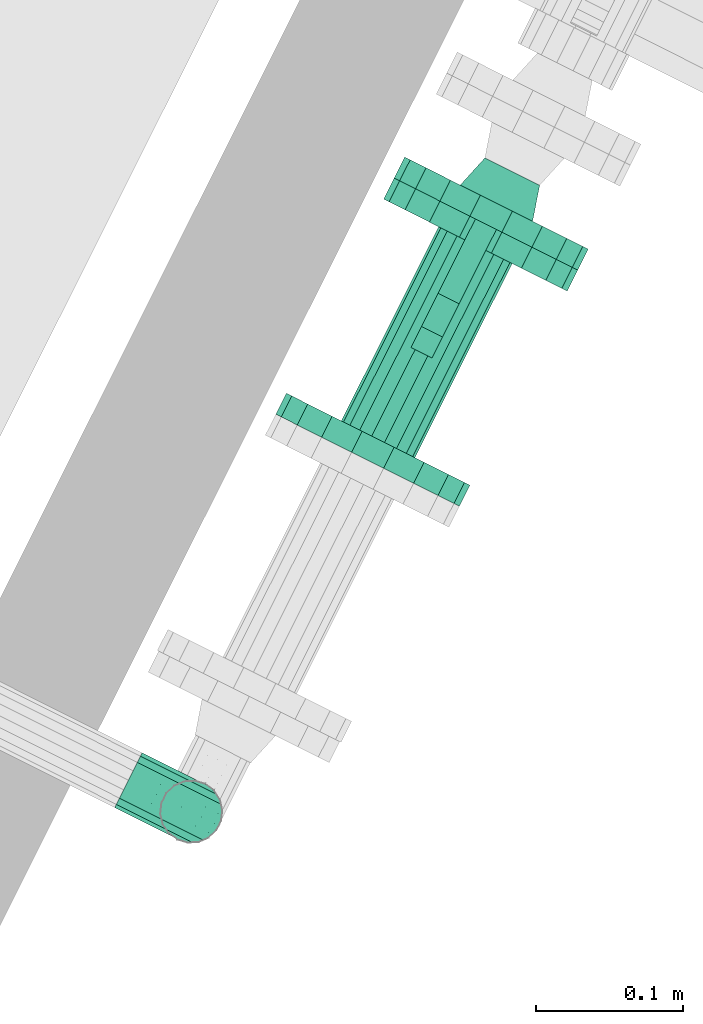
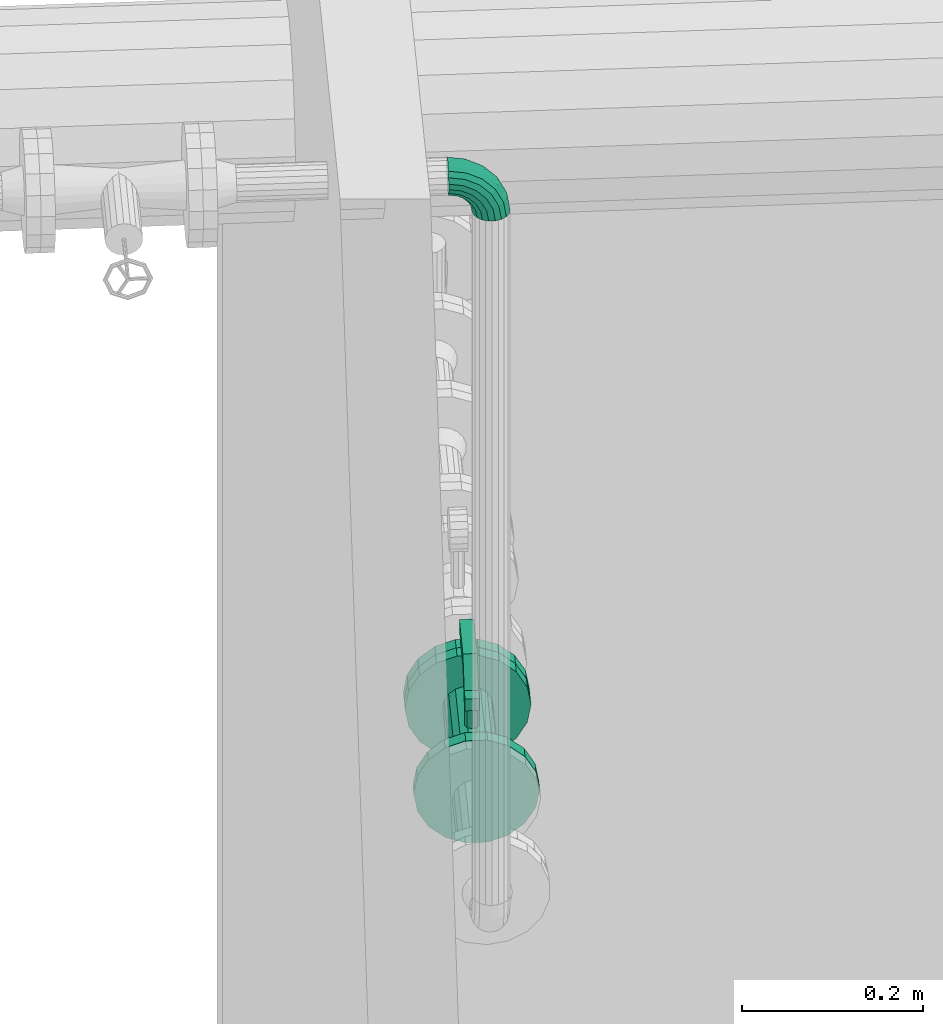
# One storey, part 84 of 206: 1 flow controller, 1 flow fitting, 1 flow segment.
"""IFC2X3 building model written with IfcOpenShell, lengths in metres."""

from ifc_helpers import new_model, si_unit, derived_unit, direction, frame, origin, place, context, subcontext, project, spatial, face_set, surface_model, source, transform, mapped, material, type_object, type_shapes, element, save


model = new_model("IFC2X3")

# Units and contexts
model_context = context("Model", 3, precision=5.2338327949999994e-05, world=origin(), true_north=direction((0.0, 1.0)))
body_context = subcontext(model_context, "Body", "Model", "MODEL_VIEW")
ifc_project = project(units=[si_unit("LENGTHUNIT", "METRE"), si_unit("AREAUNIT", "SQUARE_METRE"), si_unit("VOLUMEUNIT", "CUBIC_METRE"), si_unit("MASSUNIT", "GRAM", prefix="KILO"), si_unit("PLANEANGLEUNIT", "RADIAN"), derived_unit("THERMALTRANSMITTANCEUNIT", [(si_unit("MASSUNIT", "GRAM", prefix="KILO"), 1), (si_unit("THERMODYNAMICTEMPERATUREUNIT", "KELVIN"), -1), (si_unit("TIMEUNIT", "SECOND"), -3)])], contexts=[model_context])

# Site, building, storey
site_placement = place(None, frame((0.0, 0.0, 0.0), z_axis=(0.0, 0.0, 1.0), x_axis=(0.8939966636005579, -0.4480736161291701, 0.0)))
site = spatial("IfcSite", under=ifc_project, at=site_placement, Name="Default", CompositionType="ELEMENT")
building_placement = place(site_placement, origin())
building = spatial("IfcBuilding", under=site, at=building_placement, CompositionType="ELEMENT")
storey_placement = place(building_placement, origin())
storey = spatial("IfcBuildingStorey", under=building, at=storey_placement, Name="Erdgeschoss", CompositionType="ELEMENT", Elevation=0.0)

# Flow controller
ifc_material = material(Name="IfcSurfaceStyle #352577")
distribution_element_type_1 = type_object("IfcDistributionElementType", Name="Absperrklappe 607034:Absperrklappe 607034", material=ifc_material)
shared_shape_1 = source(origin(), body_context, "Body", "SurfaceModel", [
    surface_model("IfcFaceBasedSurfaceModel", [(29.089818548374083, 8.435162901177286, 1.5840041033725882), (29.087475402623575, 8.44081975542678, 1.5840041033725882), (29.087475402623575, 8.44081975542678, 1.6360041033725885), (29.089818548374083, 8.435162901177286, 1.6360041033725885), (29.08181854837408, 8.443162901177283, 1.5840041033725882), (29.08181854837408, 8.443162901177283, 1.6360041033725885), (29.076161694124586, 8.440819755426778, 1.5840041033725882), (29.076161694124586, 8.440819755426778, 1.6360041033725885), (29.07381854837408, 8.435162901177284, 1.5840041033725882), (29.07381854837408, 8.435162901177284, 1.6360041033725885), (29.076161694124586, 8.429506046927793, 1.5840041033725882), (29.076161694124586, 8.429506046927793, 1.6360041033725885), (29.08181854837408, 8.427162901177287, 1.5840041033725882), (29.08181854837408, 8.427162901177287, 1.6360041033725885), (29.087475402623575, 8.429506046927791, 1.5840041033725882), (29.087475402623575, 8.429506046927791, 1.6360041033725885), (29.089818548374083, 8.443162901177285, 1.6360041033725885), (29.089818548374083, 8.427162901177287, 1.6360041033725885), (29.07381854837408, 8.427162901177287, 1.6360041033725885), (29.07381854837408, 8.443162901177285, 1.6360041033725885), (29.089818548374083, 8.427162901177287, 1.6520041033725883), (29.07381854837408, 8.427162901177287, 1.6520041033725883), (29.089818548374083, 8.443162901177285, 1.6520041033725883), (29.07381854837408, 8.443162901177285, 1.6520041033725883), (29.089818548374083, 8.46849623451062, 1.684004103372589), (29.073818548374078, 8.46849623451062, 1.684004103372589), (29.089818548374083, 8.535162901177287, 1.6840041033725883), (29.073818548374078, 8.535162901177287, 1.6840041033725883), (29.089818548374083, 8.535162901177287, 1.6680041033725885), (29.073818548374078, 8.535162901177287, 1.6680041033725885), (29.089818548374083, 8.46849623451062, 1.6680041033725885), (29.073818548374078, 8.46849623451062, 1.6680041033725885), (29.151818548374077, 8.345162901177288, 1.5840041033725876), (29.147597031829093, 8.345162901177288, 1.560062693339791), (29.147597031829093, 8.361162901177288, 1.560062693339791), (29.151818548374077, 8.361162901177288, 1.5840041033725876), (29.135441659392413, 8.345162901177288, 1.539008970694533), (29.135441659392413, 8.361162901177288, 1.539008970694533), (29.11681854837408, 8.345162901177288, 1.5233823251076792), (29.11681854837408, 8.361162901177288, 1.5233823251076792), (29.093973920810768, 8.345162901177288, 1.5150675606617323), (29.093973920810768, 8.361162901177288, 1.5150675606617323), (29.069663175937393, 8.345162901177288, 1.5150675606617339), (29.069663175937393, 8.361162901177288, 1.5150675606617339), (29.046818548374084, 8.345162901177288, 1.5233823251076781), (29.046818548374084, 8.361162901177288, 1.5233823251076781), (29.028195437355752, 8.345162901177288, 1.5390089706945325), (29.028195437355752, 8.361162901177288, 1.5390089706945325), (29.016040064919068, 8.345162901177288, 1.5600626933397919), (29.016040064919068, 8.361162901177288, 1.5600626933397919), (29.011818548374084, 8.345162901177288, 1.5840041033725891), (29.011818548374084, 8.361162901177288, 1.5840041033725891), (29.016040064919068, 8.345162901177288, 1.607945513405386), (29.016040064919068, 8.361162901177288, 1.607945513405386), (29.028195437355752, 8.345162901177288, 1.6289992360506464), (29.028195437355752, 8.361162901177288, 1.6289992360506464), (29.046818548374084, 8.345162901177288, 1.6446258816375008), (29.046818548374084, 8.361162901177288, 1.6446258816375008), (29.069663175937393, 8.345162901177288, 1.6529406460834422), (29.069663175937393, 8.361162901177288, 1.6529406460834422), (29.093973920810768, 8.345162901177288, 1.652940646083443), (29.093973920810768, 8.361162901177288, 1.652940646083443), (29.11681854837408, 8.345162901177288, 1.6446258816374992), (29.11681854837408, 8.361162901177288, 1.6446258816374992), (29.135441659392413, 8.345162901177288, 1.6289992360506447), (29.135441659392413, 8.361162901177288, 1.6289992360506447), (29.147597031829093, 8.345162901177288, 1.607945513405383), (29.147597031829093, 8.361162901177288, 1.607945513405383), (29.08181854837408, 8.345162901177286, 1.5840041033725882), (29.08181854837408, 8.361162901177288, 1.5840041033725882), (29.109818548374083, 8.361162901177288, 1.5840041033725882), (29.108129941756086, 8.361162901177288, 1.5744275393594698), (29.108129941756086, 8.509162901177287, 1.5744275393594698), (29.109818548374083, 8.509162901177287, 1.5840041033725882), (29.10326779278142, 8.361162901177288, 1.5660060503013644), (29.10326779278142, 8.509162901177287, 1.5660060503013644), (29.09581854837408, 8.361162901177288, 1.5597553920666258), (29.09581854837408, 8.509162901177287, 1.5597553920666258), (29.086680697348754, 8.361162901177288, 1.556429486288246), (29.086680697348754, 8.509162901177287, 1.556429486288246), (29.076956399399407, 8.361162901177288, 1.5564294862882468), (29.076956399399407, 8.509162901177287, 1.5564294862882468), (29.067818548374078, 8.361162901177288, 1.5597553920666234), (29.067818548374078, 8.509162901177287, 1.5597553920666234), (29.060369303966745, 8.361162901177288, 1.566006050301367), (29.060369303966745, 8.509162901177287, 1.566006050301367), (29.055507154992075, 8.361162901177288, 1.5744275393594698), (29.055507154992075, 8.509162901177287, 1.5744275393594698), (29.05381854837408, 8.361162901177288, 1.5840041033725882), (29.05381854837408, 8.509162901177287, 1.5840041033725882), (29.055507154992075, 8.361162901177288, 1.5935806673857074), (29.055507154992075, 8.509162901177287, 1.5935806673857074), (29.06036930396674, 8.361162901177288, 1.6020021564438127), (29.06036930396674, 8.509162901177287, 1.6020021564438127), (29.067818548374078, 8.361162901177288, 1.608252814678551), (29.067818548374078, 8.509162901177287, 1.608252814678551), (29.076956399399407, 8.361162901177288, 1.6115787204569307), (29.076956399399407, 8.509162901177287, 1.6115787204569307), (29.086680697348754, 8.361162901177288, 1.61157872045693), (29.086680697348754, 8.509162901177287, 1.61157872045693), (29.09581854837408, 8.361162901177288, 1.6082528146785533), (29.09581854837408, 8.509162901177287, 1.6082528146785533), (29.103267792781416, 8.361162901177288, 1.60200215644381), (29.103267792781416, 8.509162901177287, 1.60200215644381), (29.108129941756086, 8.361162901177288, 1.5935806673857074), (29.108129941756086, 8.509162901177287, 1.5935806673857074), (29.151818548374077, 8.509162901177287, 1.5840041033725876), (29.147597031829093, 8.509162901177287, 1.560062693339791), (29.147597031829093, 8.52516290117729, 1.560062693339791), (29.151818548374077, 8.52516290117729, 1.5840041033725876), (29.135441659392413, 8.509162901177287, 1.539008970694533), (29.135441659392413, 8.52516290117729, 1.539008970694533), (29.11681854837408, 8.509162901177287, 1.5233823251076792), (29.11681854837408, 8.52516290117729, 1.5233823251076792), (29.093973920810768, 8.509162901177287, 1.5150675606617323), (29.093973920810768, 8.52516290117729, 1.5150675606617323), (29.069663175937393, 8.509162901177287, 1.5150675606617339), (29.069663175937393, 8.52516290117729, 1.5150675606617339), (29.046818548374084, 8.509162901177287, 1.5233823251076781), (29.046818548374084, 8.52516290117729, 1.5233823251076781), (29.028195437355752, 8.509162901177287, 1.5390089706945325), (29.028195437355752, 8.52516290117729, 1.5390089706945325), (29.016040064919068, 8.509162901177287, 1.5600626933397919), (29.016040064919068, 8.52516290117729, 1.5600626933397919), (29.011818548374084, 8.509162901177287, 1.5840041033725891), (29.011818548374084, 8.52516290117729, 1.5840041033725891), (29.016040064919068, 8.509162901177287, 1.607945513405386), (29.016040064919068, 8.52516290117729, 1.607945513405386), (29.028195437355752, 8.509162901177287, 1.6289992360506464), (29.028195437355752, 8.52516290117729, 1.6289992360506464), (29.046818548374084, 8.509162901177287, 1.6446258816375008), (29.046818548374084, 8.52516290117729, 1.6446258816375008), (29.069663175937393, 8.509162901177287, 1.6529406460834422), (29.069663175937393, 8.52516290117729, 1.6529406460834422), (29.093973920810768, 8.509162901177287, 1.652940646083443), (29.093973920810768, 8.52516290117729, 1.652940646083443), (29.11681854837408, 8.509162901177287, 1.6446258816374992), (29.11681854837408, 8.52516290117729, 1.6446258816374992), (29.135441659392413, 8.509162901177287, 1.6289992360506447), (29.135441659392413, 8.52516290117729, 1.6289992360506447), (29.147597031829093, 8.509162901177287, 1.607945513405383), (29.147597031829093, 8.52516290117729, 1.607945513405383), (29.08181854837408, 8.509162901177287, 1.5840041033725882), (29.08181854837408, 8.525162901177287, 1.5840041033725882)], [face_set([[[0, 1, 2, 3]], [[1, 4, 5, 2]], [[4, 6, 7, 5]], [[6, 8, 9, 7]], [[8, 10, 11, 9]], [[10, 12, 13, 11]], [[12, 14, 15, 13]], [[14, 0, 3, 15]], [[16, 17, 18, 19]], [[17, 20, 21, 18]], [[20, 22, 23, 21]], [[22, 24, 25, 23]], [[24, 26, 27, 25]], [[26, 28, 29, 27]], [[28, 30, 31, 29]], [[30, 16, 19, 31]], [[18, 23, 19]], [[25, 19, 23]], [[19, 25, 31]], [[27, 31, 25]], [[31, 27, 29]], [[23, 18, 21]], [[16, 22, 17]], [[22, 16, 24]], [[30, 24, 16]], [[24, 30, 26]], [[28, 26, 30]], [[20, 17, 22]], [[32, 33, 34, 35]], [[33, 36, 37, 34]], [[36, 38, 39, 37]], [[38, 40, 41, 39]], [[40, 42, 43, 41]], [[42, 44, 45, 43]], [[44, 46, 47, 45]], [[46, 48, 49, 47]], [[48, 50, 51, 49]], [[50, 52, 53, 51]], [[52, 54, 55, 53]], [[54, 56, 57, 55]], [[56, 58, 59, 57]], [[58, 60, 61, 59]], [[60, 62, 63, 61]], [[62, 64, 65, 63]], [[64, 66, 67, 65]], [[66, 32, 35, 67]], [[68, 33, 32]], [[68, 36, 33]], [[68, 38, 36]], [[68, 40, 38]], [[68, 42, 40]], [[68, 44, 42]], [[68, 46, 44]], [[68, 48, 46]], [[68, 50, 48]], [[68, 52, 50]], [[68, 54, 52]], [[68, 56, 54]], [[68, 58, 56]], [[68, 60, 58]], [[68, 62, 60]], [[68, 64, 62]], [[68, 66, 64]], [[68, 32, 66]], [[69, 67, 35]], [[69, 65, 67]], [[69, 63, 65]], [[69, 61, 63]], [[69, 59, 61]], [[69, 57, 59]], [[69, 55, 57]], [[69, 53, 55]], [[69, 51, 53]], [[69, 49, 51]], [[69, 47, 49]], [[69, 45, 47]], [[69, 43, 45]], [[69, 41, 43]], [[69, 39, 41]], [[69, 37, 39]], [[69, 34, 37]], [[69, 35, 34]], [[70, 71, 72, 73]], [[71, 74, 75, 72]], [[74, 76, 77, 75]], [[76, 78, 79, 77]], [[78, 80, 81, 79]], [[80, 82, 83, 81]], [[82, 84, 85, 83]], [[84, 86, 87, 85]], [[86, 88, 89, 87]], [[88, 90, 91, 89]], [[90, 92, 93, 91]], [[92, 94, 95, 93]], [[94, 96, 97, 95]], [[96, 98, 99, 97]], [[98, 100, 101, 99]], [[100, 102, 103, 101]], [[102, 104, 105, 103]], [[104, 70, 73, 105]], [[106, 107, 108, 109]], [[107, 110, 111, 108]], [[110, 112, 113, 111]], [[112, 114, 115, 113]], [[114, 116, 117, 115]], [[116, 118, 119, 117]], [[118, 120, 121, 119]], [[120, 122, 123, 121]], [[122, 124, 125, 123]], [[124, 126, 127, 125]], [[126, 128, 129, 127]], [[128, 130, 131, 129]], [[130, 132, 133, 131]], [[132, 134, 135, 133]], [[134, 136, 137, 135]], [[136, 138, 139, 137]], [[138, 140, 141, 139]], [[140, 106, 109, 141]], [[142, 107, 106]], [[142, 110, 107]], [[142, 112, 110]], [[142, 114, 112]], [[142, 116, 114]], [[142, 118, 116]], [[142, 120, 118]], [[142, 122, 120]], [[142, 124, 122]], [[142, 126, 124]], [[142, 128, 126]], [[142, 130, 128]], [[142, 132, 130]], [[142, 134, 132]], [[142, 136, 134]], [[142, 138, 136]], [[142, 140, 138]], [[142, 106, 140]], [[143, 141, 109]], [[143, 139, 141]], [[143, 137, 139]], [[143, 135, 137]], [[143, 133, 135]], [[143, 131, 133]], [[143, 129, 131]], [[143, 127, 129]], [[143, 125, 127]], [[143, 123, 125]], [[143, 121, 123]], [[143, 119, 121]], [[143, 117, 119]], [[143, 115, 117]], [[143, 113, 115]], [[143, 111, 113]], [[143, 108, 111]], [[143, 109, 108]]])]),
])
type_shapes(distribution_element_type_1, [shared_shape_1])
flow_controller_placement = place(storey_placement, origin())
element("IfcFlowController", 1, at=flow_controller_placement, inside=storey, type_object=distribution_element_type_1, material=ifc_material, Name="Absperrklappe", ObjectType="Absperrklappe", context=body_context, shape_type="MappedRepresentation", body=[
    mapped(shared_shape_1, transform((0.0, 0.0, 0.0), scale=1.0)),
])

# Flow fitting
distribution_element_type_2 = type_object("IfcDistributionElementType", Name="Flansch 607057:Flansch 607057", material=ifc_material)
shared_shape_2 = source(origin(), body_context, "Body", "SurfaceModel", [
    surface_model("IfcFaceBasedSurfaceModel", [(29.151818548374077, 8.525162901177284, 1.5840041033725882), (29.14759703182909, 8.525162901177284, 1.5600626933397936), (29.14759703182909, 8.541162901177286, 1.5600626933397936), (29.151818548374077, 8.541162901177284, 1.5840041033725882), (29.13544165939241, 8.525162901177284, 1.5390089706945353), (29.13544165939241, 8.541162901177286, 1.5390089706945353), (29.116818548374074, 8.525162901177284, 1.5233823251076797), (29.116818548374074, 8.541162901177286, 1.5233823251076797), (29.093973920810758, 8.525162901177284, 1.5150675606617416), (29.093973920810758, 8.541162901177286, 1.5150675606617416), (29.069663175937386, 8.525162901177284, 1.5150675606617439), (29.069663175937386, 8.541162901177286, 1.5150675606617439), (29.04681854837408, 8.525162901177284, 1.5233823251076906), (29.04681854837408, 8.541162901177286, 1.5233823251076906), (29.02819543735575, 8.525162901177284, 1.539008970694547), (29.02819543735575, 8.541162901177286, 1.539008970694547), (29.016040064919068, 8.525162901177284, 1.5600626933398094), (29.016040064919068, 8.541162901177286, 1.5600626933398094), (29.011818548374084, 8.525162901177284, 1.5840041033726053), (29.011818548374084, 8.541162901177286, 1.5840041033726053), (29.016040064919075, 8.525162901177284, 1.607945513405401), (29.016040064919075, 8.541162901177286, 1.607945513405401), (29.02819543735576, 8.525162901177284, 1.6289992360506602), (29.02819543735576, 8.541162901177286, 1.6289992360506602), (29.046818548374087, 8.525162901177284, 1.6446258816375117), (29.046818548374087, 8.541162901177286, 1.6446258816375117), (29.069663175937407, 8.525162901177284, 1.6529406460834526), (29.069663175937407, 8.541162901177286, 1.6529406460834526), (29.093973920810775, 8.525162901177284, 1.6529406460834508), (29.093973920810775, 8.541162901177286, 1.6529406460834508), (29.11681854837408, 8.525162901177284, 1.6446258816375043), (29.11681854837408, 8.541162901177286, 1.6446258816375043), (29.135441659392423, 8.525162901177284, 1.6289992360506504), (29.135441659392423, 8.541162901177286, 1.6289992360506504), (29.1475970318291, 8.525162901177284, 1.607945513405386), (29.1475970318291, 8.541162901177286, 1.607945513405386), (29.08181854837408, 8.541162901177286, 1.5840041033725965), (29.08181854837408, 8.541162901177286, 1.5560041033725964), (29.07224198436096, 8.541162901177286, 1.5576927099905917), (29.074567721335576, 8.565162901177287, 1.5640826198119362), (29.08181854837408, 8.565162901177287, 1.562804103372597), (29.06382049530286, 8.541162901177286, 1.562554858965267), (29.06819145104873, 8.565162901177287, 1.5677639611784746), (29.057569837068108, 8.541162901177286, 1.570004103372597), (29.063458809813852, 8.565162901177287, 1.5734041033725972), (29.054243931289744, 8.541162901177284, 1.5791419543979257), (29.06094062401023, 8.565162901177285, 1.5803227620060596), (29.05424393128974, 8.541162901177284, 1.588866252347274), (29.06094062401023, 8.565162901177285, 1.5876854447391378), (29.057569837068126, 8.541162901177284, 1.5980041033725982), (29.063458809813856, 8.565162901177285, 1.5946041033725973), (29.06382049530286, 8.541162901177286, 1.6054533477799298), (29.068191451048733, 8.565162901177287, 1.6002442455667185), (29.07224198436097, 8.541162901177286, 1.6103154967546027), (29.07456772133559, 8.565162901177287, 1.6039255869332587), (29.081818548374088, 8.541162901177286, 1.612004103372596), (29.081818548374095, 8.565162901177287, 1.6052041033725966), (29.091395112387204, 8.541162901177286, 1.6103154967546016), (29.08906937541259, 8.565162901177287, 1.6039255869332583), (29.099816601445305, 8.541162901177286, 1.605453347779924), (29.095445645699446, 8.565162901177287, 1.6002442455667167), (29.106067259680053, 8.541162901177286, 1.5980041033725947), (29.100178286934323, 8.565162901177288, 1.594604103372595), (29.109393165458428, 8.541162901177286, 1.588866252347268), (29.102696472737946, 8.565162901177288, 1.5876854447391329), (29.109393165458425, 8.541162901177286, 1.57914195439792), (29.10269647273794, 8.565162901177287, 1.5803227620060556), (29.10606725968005, 8.541162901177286, 1.570004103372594), (29.10017828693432, 8.565162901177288, 1.5734041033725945), (29.0998166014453, 8.541162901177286, 1.562554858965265), (29.095445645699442, 8.565162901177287, 1.5677639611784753), (29.0913951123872, 8.541162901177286, 1.5576927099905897), (29.089069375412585, 8.565162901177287, 1.564082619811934)], [face_set([[[0, 1, 2, 3]], [[1, 4, 5, 2]], [[4, 6, 7, 5]], [[6, 8, 9, 7]], [[8, 10, 11, 9]], [[10, 12, 13, 11]], [[12, 14, 15, 13]], [[14, 16, 17, 15]], [[16, 18, 19, 17]], [[18, 20, 21, 19]], [[20, 22, 23, 21]], [[22, 24, 25, 23]], [[24, 26, 27, 25]], [[26, 28, 29, 27]], [[28, 30, 31, 29]], [[30, 32, 33, 31]], [[32, 34, 35, 33]], [[34, 0, 3, 35]], [[36, 35, 3]], [[36, 33, 35]], [[36, 31, 33]], [[36, 29, 31]], [[36, 27, 29]], [[36, 25, 27]], [[36, 23, 25]], [[36, 21, 23]], [[36, 19, 21]], [[36, 17, 19]], [[36, 15, 17]], [[36, 13, 15]], [[36, 11, 13]], [[36, 9, 11]], [[36, 7, 9]], [[36, 5, 7]], [[36, 2, 5]], [[36, 3, 2]], [[37, 38, 39, 40]], [[38, 41, 42, 39]], [[41, 43, 44, 42]], [[43, 45, 46, 44]], [[45, 47, 48, 46]], [[47, 49, 50, 48]], [[49, 51, 52, 50]], [[51, 53, 54, 52]], [[53, 55, 56, 54]], [[55, 57, 58, 56]], [[57, 59, 60, 58]], [[59, 61, 62, 60]], [[61, 63, 64, 62]], [[63, 65, 66, 64]], [[65, 67, 68, 66]], [[67, 69, 70, 68]], [[69, 71, 72, 70]], [[71, 37, 40, 72]]])]),
])
type_shapes(distribution_element_type_2, [shared_shape_2])
flow_fitting_placement = place(storey_placement, origin())
element("IfcFlowFitting", 2, at=flow_fitting_placement, inside=storey, type_object=distribution_element_type_2, material=ifc_material, Name="Flansch", ObjectType="Flansch", context=body_context, shape_type="MappedRepresentation", body=[
    mapped(shared_shape_2, transform((0.0, 0.0, 0.0), scale=1.0)),
])

# Flow segment
distribution_element_type_3 = type_object("IfcDistributionElementType", Name="Rohrbogen 611750:Rohrbogen 611750", material=ifc_material)
shared_shape_3 = source(origin(), body_context, "Body", "SurfaceModel", [
    surface_model("IfcFaceBasedSurfaceModel", [(29.103018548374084, 8.077162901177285, 2.557164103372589), (29.10174003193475, 8.084413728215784, 2.5571641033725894), (29.098415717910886, 8.084413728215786, 2.578152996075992), (29.099631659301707, 8.077162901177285, 2.578548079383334), (29.08876818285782, 8.084413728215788, 2.5970873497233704), (29.08980252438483, 8.077162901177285, 2.597838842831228), (29.07374179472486, 8.084413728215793, 2.612113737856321), (29.07449328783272, 8.07716290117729, 2.613148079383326), (29.054807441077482, 8.084413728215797, 2.621761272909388), (29.05520252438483, 8.077162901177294, 2.622977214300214), (29.033818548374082, 8.084413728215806, 2.625085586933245), (29.033818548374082, 8.077162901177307, 2.6263641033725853), (29.098058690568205, 8.090789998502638, 2.557164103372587), (29.09491455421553, 8.090789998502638, 2.577015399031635), (29.0857899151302, 8.090789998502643, 2.5949235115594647), (29.071577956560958, 8.090789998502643, 2.609135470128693), (29.05366984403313, 8.09078999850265, 2.618260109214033), (29.033818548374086, 8.09078999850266, 2.621404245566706), (29.09241854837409, 8.095522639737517, 2.557164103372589), (29.08955046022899, 8.09552263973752, 2.575272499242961), (29.08122694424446, 8.095522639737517, 2.5916083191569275), (29.068262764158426, 8.09552263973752, 2.6045724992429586), (29.05192694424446, 8.095522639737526, 2.612896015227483), (29.033818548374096, 8.09552263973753, 2.6157641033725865), (29.085499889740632, 8.098040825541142, 2.557164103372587), (29.08297042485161, 8.098040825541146, 2.5731345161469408), (29.07562963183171, 8.098040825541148, 2.587541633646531), (29.064196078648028, 8.098040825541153, 2.598975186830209), (29.049788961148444, 8.098040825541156, 2.606315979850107), (29.033818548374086, 8.09804082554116, 2.6088454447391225), (29.07813720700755, 8.09804082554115, 2.5571641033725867), (29.0759680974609, 8.09804082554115, 2.5708593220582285), (29.069673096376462, 8.098040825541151, 2.58321395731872), (29.05986840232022, 8.098040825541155, 2.5930186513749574), (29.04751376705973, 8.098040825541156, 2.5993136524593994), (29.033818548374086, 8.098040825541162, 2.601482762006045), (29.07121854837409, 8.095522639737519, 2.557164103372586), (29.06938806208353, 8.095522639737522, 2.5687213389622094), (29.064075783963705, 8.095522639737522, 2.5791472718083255), (29.05580171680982, 8.095522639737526, 2.587421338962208), (29.04537578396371, 8.095522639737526, 2.5927336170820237), (29.033818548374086, 8.095522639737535, 2.594564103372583), (29.065578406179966, 8.090789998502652, 2.557164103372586), (29.064023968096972, 8.090789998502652, 2.5669784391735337), (29.059512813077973, 8.09078999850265, 2.575832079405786), (29.052486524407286, 8.090789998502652, 2.582858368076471), (29.04363288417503, 8.09078999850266, 2.5873695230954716), (29.033818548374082, 8.090789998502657, 2.5889239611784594), (29.06189706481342, 8.084413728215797, 2.5571641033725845), (29.060522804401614, 8.084413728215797, 2.5658408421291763), (29.056534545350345, 8.0844137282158, 2.5736682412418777), (29.05032268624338, 8.084413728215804, 2.579880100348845), (29.04249528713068, 8.084413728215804, 2.5838683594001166), (29.033818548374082, 8.084413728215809, 2.5852426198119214), (29.06061854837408, 8.0771629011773, 2.557164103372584), (29.0593068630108, 8.0771629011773, 2.5654457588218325), (29.05550020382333, 8.0771629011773, 2.572916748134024), (29.04957119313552, 8.077162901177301, 2.5788457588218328), (29.042100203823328, 8.077162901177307, 2.5826524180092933), (29.033818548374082, 8.077162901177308, 2.583964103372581), (29.06189706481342, 8.069912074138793, 2.5571641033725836), (29.060522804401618, 8.069912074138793, 2.5658408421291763), (29.05653454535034, 8.069912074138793, 2.5736682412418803), (29.05032268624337, 8.069912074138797, 2.5798801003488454), (29.042495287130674, 8.069912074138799, 2.583868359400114), (29.033818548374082, 8.069912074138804, 2.585242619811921), (29.065578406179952, 8.063535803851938, 2.5571641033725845), (29.064023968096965, 8.063535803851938, 2.5669784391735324), (29.05951281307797, 8.063535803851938, 2.575832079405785), (29.052486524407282, 8.063535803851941, 2.5828583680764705), (29.043632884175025, 8.063535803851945, 2.5873695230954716), (29.033818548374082, 8.063535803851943, 2.58892396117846), (29.071218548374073, 8.058803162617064, 2.557164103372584), (29.069388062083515, 8.058803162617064, 2.5687213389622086), (29.0640757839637, 8.058803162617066, 2.5791472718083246), (29.055801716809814, 8.058803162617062, 2.587421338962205), (29.045375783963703, 8.058803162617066, 2.592733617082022), (29.033818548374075, 8.058803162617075, 2.5945641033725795), (29.07813720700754, 8.056284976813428, 2.5571641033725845), (29.075968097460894, 8.056284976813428, 2.5708593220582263), (29.069673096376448, 8.056284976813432, 2.5832139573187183), (29.059868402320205, 8.056284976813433, 2.593018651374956), (29.047513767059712, 8.056284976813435, 2.5993136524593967), (29.03381854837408, 8.05628497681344, 2.6014827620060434), (29.085499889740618, 8.056284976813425, 2.557164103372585), (29.0829704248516, 8.056284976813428, 2.573134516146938), (29.075629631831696, 8.05628497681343, 2.5875416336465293), (29.06419607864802, 8.056284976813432, 2.5989751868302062), (29.049788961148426, 8.056284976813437, 2.606315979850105), (29.033818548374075, 8.056284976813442, 2.6088454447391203), (29.092418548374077, 8.058803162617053, 2.5571641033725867), (29.089550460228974, 8.058803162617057, 2.575272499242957), (29.081226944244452, 8.058803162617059, 2.5916083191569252), (29.068262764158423, 8.05880316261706, 2.6045724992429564), (29.05192694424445, 8.058803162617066, 2.6128960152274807), (29.033818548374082, 8.05880316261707, 2.615764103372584), (29.098058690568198, 8.063535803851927, 2.5571641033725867), (29.094914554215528, 8.063535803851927, 2.577015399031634), (29.085789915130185, 8.063535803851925, 2.5949235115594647), (29.071577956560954, 8.063535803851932, 2.609135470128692), (29.053669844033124, 8.063535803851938, 2.6182601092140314), (29.03381854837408, 8.063535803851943, 2.621404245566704), (29.101740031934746, 8.06991207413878, 2.557164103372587), (29.098415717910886, 8.06991207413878, 2.5781529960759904), (29.088768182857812, 8.069912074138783, 2.597087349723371), (29.07374179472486, 8.069912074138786, 2.61211373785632), (29.05480744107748, 8.069912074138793, 2.621761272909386), (29.033818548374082, 8.069912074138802, 2.6250855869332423)], [face_set([[[0, 1, 2, 3]], [[3, 2, 4, 5]], [[5, 4, 6, 7]], [[7, 6, 8, 9]], [[9, 8, 10, 11]], [[1, 12, 13, 2]], [[2, 13, 14, 4]], [[4, 14, 15, 6]], [[6, 15, 16, 8]], [[8, 16, 17, 10]], [[12, 18, 19, 13]], [[13, 19, 20, 14]], [[14, 20, 21, 15]], [[15, 21, 22, 16]], [[16, 22, 23, 17]], [[18, 24, 25, 19]], [[19, 25, 26, 20]], [[20, 26, 27, 21]], [[21, 27, 28, 22]], [[22, 28, 29, 23]], [[24, 30, 31, 25]], [[25, 31, 32, 26]], [[26, 32, 33, 27]], [[27, 33, 34, 28]], [[28, 34, 35, 29]], [[30, 36, 37, 31]], [[31, 37, 38, 32]], [[32, 38, 39, 33]], [[33, 39, 40, 34]], [[34, 40, 41, 35]], [[36, 42, 43, 37]], [[37, 43, 44, 38]], [[38, 44, 45, 39]], [[39, 45, 46, 40]], [[40, 46, 47, 41]], [[42, 48, 49, 43]], [[43, 49, 50, 44]], [[44, 50, 51, 45]], [[45, 51, 52, 46]], [[46, 52, 53, 47]], [[48, 54, 55, 49]], [[49, 55, 56, 50]], [[50, 56, 57, 51]], [[51, 57, 58, 52]], [[52, 58, 59, 53]], [[54, 60, 61, 55]], [[55, 61, 62, 56]], [[56, 62, 63, 57]], [[57, 63, 64, 58]], [[58, 64, 65, 59]], [[60, 66, 67, 61]], [[61, 67, 68, 62]], [[62, 68, 69, 63]], [[63, 69, 70, 64]], [[64, 70, 71, 65]], [[66, 72, 73, 67]], [[67, 73, 74, 68]], [[68, 74, 75, 69]], [[69, 75, 76, 70]], [[70, 76, 77, 71]], [[72, 78, 79, 73]], [[73, 79, 80, 74]], [[74, 80, 81, 75]], [[75, 81, 82, 76]], [[76, 82, 83, 77]], [[78, 84, 85, 79]], [[79, 85, 86, 80]], [[80, 86, 87, 81]], [[81, 87, 88, 82]], [[82, 88, 89, 83]], [[84, 90, 91, 85]], [[85, 91, 92, 86]], [[86, 92, 93, 87]], [[87, 93, 94, 88]], [[88, 94, 95, 89]], [[90, 96, 97, 91]], [[91, 97, 98, 92]], [[92, 98, 99, 93]], [[93, 99, 100, 94]], [[94, 100, 101, 95]], [[96, 102, 103, 97]], [[97, 103, 104, 98]], [[98, 104, 105, 99]], [[99, 105, 106, 100]], [[100, 106, 107, 101]], [[102, 0, 3, 103]], [[103, 3, 5, 104]], [[104, 5, 7, 105]], [[105, 7, 9, 106]], [[106, 9, 11, 107]]])]),
])
type_shapes(distribution_element_type_3, [shared_shape_3])
flow_segment_placement = place(storey_placement, origin())
element("IfcFlowSegment", 3, at=flow_segment_placement, inside=storey, type_object=distribution_element_type_3, material=ifc_material, Name="Rohrbogen", ObjectType="Rohrbogen", context=body_context, shape_type="MappedRepresentation", body=[
    mapped(shared_shape_3, transform((0.0, 0.0, 0.0), scale=1.0)),
])

save(model, "model.ifc")
